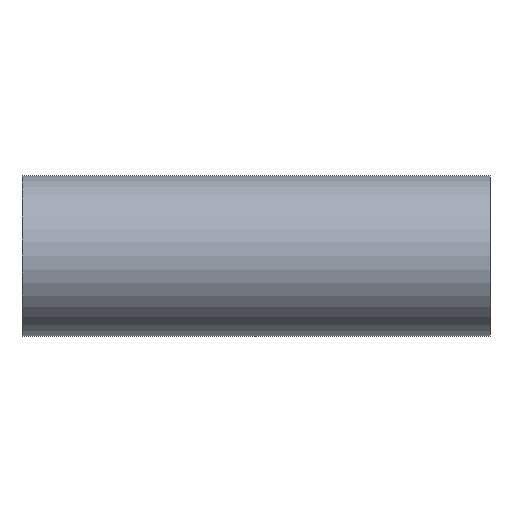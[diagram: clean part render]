
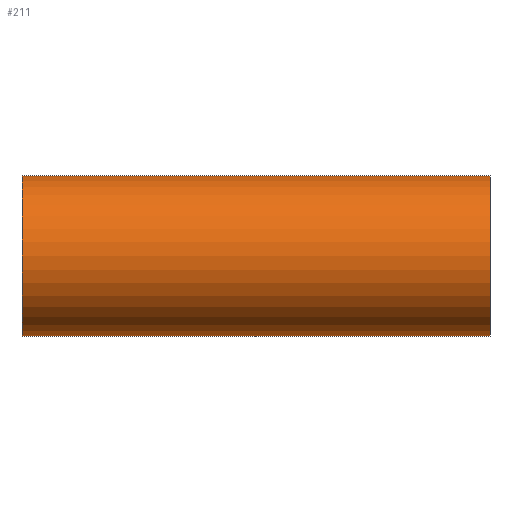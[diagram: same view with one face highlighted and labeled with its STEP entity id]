
A CAD part, front view. The second image highlights one B-rep face of the part: STEP entity #211.
In plain terms, the highlighted cylindrical face has radius 44.45 mm (diameter 88.9 mm), a full revolution.
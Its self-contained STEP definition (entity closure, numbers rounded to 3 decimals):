
#16=FACE_BOUND('',#75,.T.);
#17=FACE_BOUND('',#76,.T.);
#35=CIRCLE('',#240,44.45);
#36=CIRCLE('',#241,44.45);
#45=CYLINDRICAL_SURFACE('',#239,44.45);
#57=FACE_OUTER_BOUND('',#74,.T.);
#74=EDGE_LOOP('',(#159));
#75=EDGE_LOOP('',(#160,#161));
#76=EDGE_LOOP('',(#162));
#99=ELLIPSE('',#228,66.491,44.45);
#102=ELLIPSE('',#231,66.491,44.45);
#107=VERTEX_POINT('',#1202);
#108=VERTEX_POINT('',#1204);
#111=VERTEX_POINT('',#1509);
#112=VERTEX_POINT('',#1511);
#124=EDGE_CURVE('',#107,#108,#99,.T.);
#127=EDGE_CURVE('',#108,#107,#102,.T.);
#132=EDGE_CURVE('',#111,#111,#35,.T.);
#133=EDGE_CURVE('',#112,#112,#36,.T.);
#159=ORIENTED_EDGE('',*,*,#132,.T.);
#160=ORIENTED_EDGE('',*,*,#124,.F.);
#161=ORIENTED_EDGE('',*,*,#127,.F.);
#162=ORIENTED_EDGE('',*,*,#133,.F.);
#211=ADVANCED_FACE('',(#57,#16,#17),#45,.T.);
#228=AXIS2_PLACEMENT_3D('',#1205,#268,#269);
#231=AXIS2_PLACEMENT_3D('',#1499,#274,#275);
#239=AXIS2_PLACEMENT_3D('',#1508,#290,#291);
#240=AXIS2_PLACEMENT_3D('',#1510,#292,#293);
#241=AXIS2_PLACEMENT_3D('',#1512,#294,#295);
#268=DIRECTION('center_axis',(-0.669,0.744,0.));
#269=DIRECTION('ref_axis',(0.744,0.669,0.));
#274=DIRECTION('center_axis',(0.669,0.744,0.));
#275=DIRECTION('ref_axis',(-0.744,0.669,0.));
#290=DIRECTION('center_axis',(1.,0.,0.));
#291=DIRECTION('ref_axis',(0.,-1.,0.));
#292=DIRECTION('center_axis',(-1.,0.,0.));
#293=DIRECTION('ref_axis',(0.,-1.,0.));
#294=DIRECTION('center_axis',(-1.,0.,0.));
#295=DIRECTION('ref_axis',(0.,-1.,0.));
#1202=CARTESIAN_POINT('',(130.,0.,44.45));
#1204=CARTESIAN_POINT('',(130.,0.,-44.45));
#1205=CARTESIAN_POINT('Origin',(130.,0.,0.));
#1499=CARTESIAN_POINT('Origin',(130.,0.,0.));
#1508=CARTESIAN_POINT('Origin',(0.,0.,0.));
#1509=CARTESIAN_POINT('',(260.,44.45,0.));
#1510=CARTESIAN_POINT('Origin',(260.,0.,0.));
#1511=CARTESIAN_POINT('',(0.,44.45,0.));
#1512=CARTESIAN_POINT('Origin',(0.,0.,0.));
